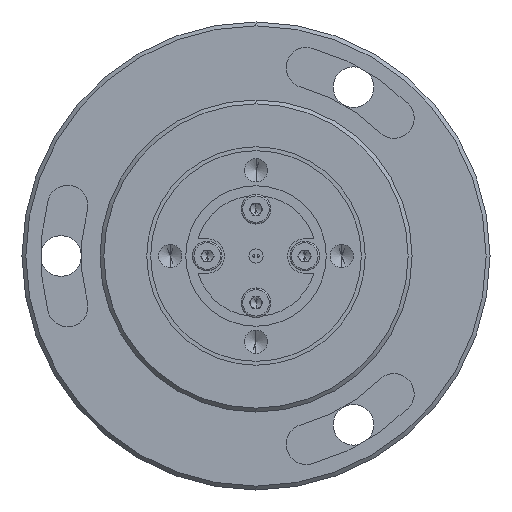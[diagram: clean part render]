
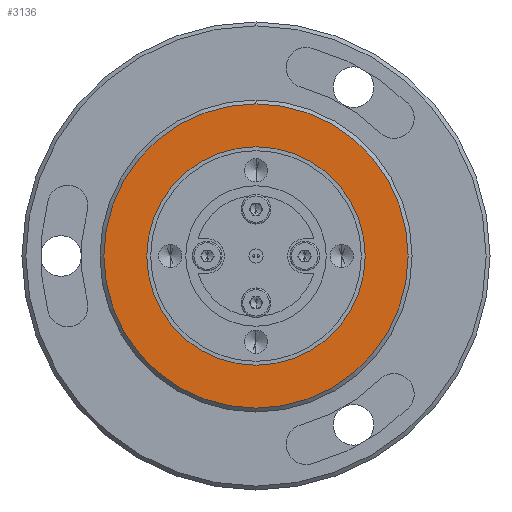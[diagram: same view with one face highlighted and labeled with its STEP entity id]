
A CAD part, left-side view. The second image highlights one B-rep face of the part: STEP entity #3136.
In plain terms, the highlighted planar face has unit normal (-1, 0, 0).
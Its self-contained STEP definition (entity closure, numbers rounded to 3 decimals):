
#2349 = CARTESIAN_POINT ( 'NONE',  ( 0., 0., 0. ) ) ;
#2355 = DIRECTION ( 'NONE',  ( -1., 0., 0. ) ) ;
#2356 = DIRECTION ( 'NONE',  ( 0., 0., 1. ) ) ;
#2357 = CARTESIAN_POINT ( 'NONE',  ( 0., 0., 0. ) ) ;
#2358 = DIRECTION ( 'NONE',  ( -1., 0., 0. ) ) ;
#2359 = DIRECTION ( 'NONE',  ( 0., 0., -1. ) ) ;
#2519 = CARTESIAN_POINT ( 'NONE',  ( 0., 0., -14. ) ) ;
#3136 = ADVANCED_FACE ( 'NONE', ( #13464, #13453 ), #14709, .F. ) ;
#3774 = AXIS2_PLACEMENT_3D ( 'NONE', #11446, #11456, #11457 ) ;
#3814 = AXIS2_PLACEMENT_3D ( 'NONE', #11610, #11616, #11617 ) ;
#7270 = ORIENTED_EDGE ( 'NONE', *, *, #21133, .F. ) ;
#7272 = ORIENTED_EDGE ( 'NONE', *, *, #21193, .T. ) ;
#7273 = ORIENTED_EDGE ( 'NONE', *, *, #7509, .F. ) ;
#7275 = ORIENTED_EDGE ( 'NONE', *, *, #7510, .T. ) ;
#7509 = EDGE_CURVE ( 'NONE', #13739, #13580, #10295, .T. ) ;
#7510 = EDGE_CURVE ( 'NONE', #13649, #13651, #10302, .T. ) ;
#7945 = AXIS2_PLACEMENT_3D ( 'NONE', #14526, #14630, #14702 ) ;
#8278 = AXIS2_PLACEMENT_3D ( 'NONE', #2357, #2358, #2359 ) ;
#8294 = AXIS2_PLACEMENT_3D ( 'NONE', #2349, #2355, #2356 ) ;
#10295 = CIRCLE ( 'NONE', #8294, 14. ) ;
#10302 = CIRCLE ( 'NONE', #8278, 19.5 ) ;
#10604 = CIRCLE ( 'NONE', #3774, 14. ) ;
#10689 = CIRCLE ( 'NONE', #3814, 19.5 ) ;
#11446 = CARTESIAN_POINT ( 'NONE',  ( 0., 0., 0. ) ) ;
#11456 = DIRECTION ( 'NONE',  ( -1., 0., 0. ) ) ;
#11457 = DIRECTION ( 'NONE',  ( 0., 0., 1. ) ) ;
#11610 = CARTESIAN_POINT ( 'NONE',  ( 0., 0., 0. ) ) ;
#11616 = DIRECTION ( 'NONE',  ( -1., 0., 0. ) ) ;
#11617 = DIRECTION ( 'NONE',  ( 0., 0., -1. ) ) ;
#13453 = FACE_BOUND ( 'NONE', #17169, .T. ) ;
#13464 = FACE_OUTER_BOUND ( 'NONE', #17171, .T. ) ;
#13580 = VERTEX_POINT ( 'NONE', #2519 ) ;
#13649 = VERTEX_POINT ( 'NONE', #21268 ) ;
#13651 = VERTEX_POINT ( 'NONE', #21269 ) ;
#13739 = VERTEX_POINT ( 'NONE', #21337 ) ;
#14526 = CARTESIAN_POINT ( 'NONE',  ( 0., 20., 0. ) ) ;
#14630 = DIRECTION ( 'NONE',  ( 1., 0., 0. ) ) ;
#14702 = DIRECTION ( 'NONE',  ( 0., 0., -1. ) ) ;
#14709 = PLANE ( 'NONE',  #7945 ) ;
#17169 = EDGE_LOOP ( 'NONE', ( #7273, #7270 ) ) ;
#17171 = EDGE_LOOP ( 'NONE', ( #7275, #7272 ) ) ;
#21133 = EDGE_CURVE ( 'NONE', #13580, #13739, #10604, .T. ) ;
#21193 = EDGE_CURVE ( 'NONE', #13651, #13649, #10689, .T. ) ;
#21268 = CARTESIAN_POINT ( 'NONE',  ( 0., 0., -19.5 ) ) ;
#21269 = CARTESIAN_POINT ( 'NONE',  ( 0., 0., 19.5 ) ) ;
#21337 = CARTESIAN_POINT ( 'NONE',  ( 0., 0., 14. ) ) ;
